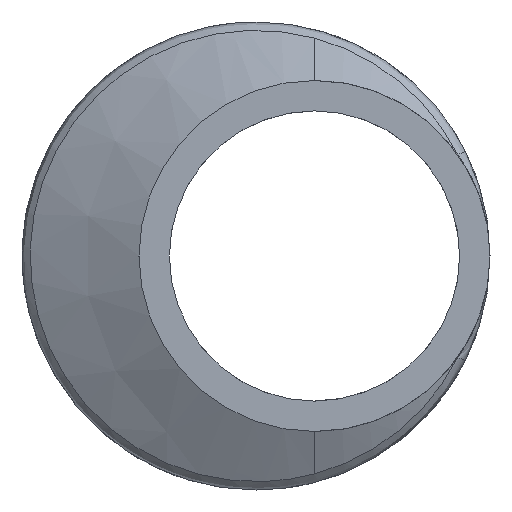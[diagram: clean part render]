
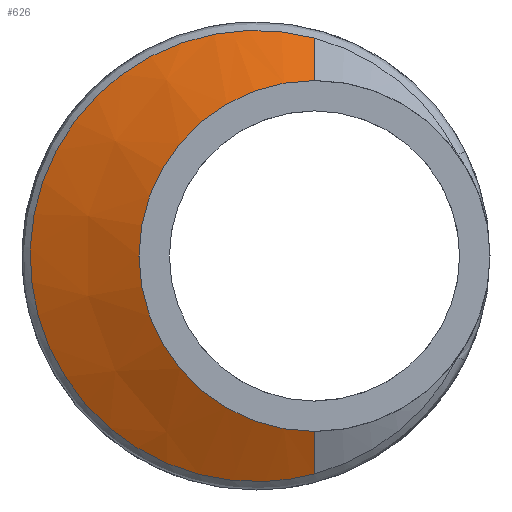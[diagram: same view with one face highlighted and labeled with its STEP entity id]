
A CAD part, left-side view. The second image highlights one B-rep face of the part: STEP entity #626.
In plain terms, the highlighted conical face has half-angle 63.435 degrees and reference radius 9.525 mm.
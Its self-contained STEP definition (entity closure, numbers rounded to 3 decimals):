
#22 = CARTESIAN_POINT ( 'NONE',  ( -27.424, -3.175, 11.826 ) ) ;
#28 = CARTESIAN_POINT ( 'NONE',  ( -26.946, 0.519, 12.271 ) ) ;
#34 = CARTESIAN_POINT ( 'NONE',  ( -25.798, 10.567, 6.278 ) ) ;
#42 = CARTESIAN_POINT ( 'NONE',  ( -25.713, 11.374, -4.592 ) ) ;
#46 = CARTESIAN_POINT ( 'NONE',  ( -26.507, 4.17, -11.527 ) ) ;
#66 = ORIENTED_EDGE ( 'NONE', *, *, #1211, .T. ) ;
#91 = FACE_OUTER_BOUND ( 'NONE', #755, .T. ) ;
#129 = CARTESIAN_POINT ( 'NONE',  ( -27.364, -2.727, 11.947 ) ) ;
#134 = CARTESIAN_POINT ( 'NONE',  ( -26.666, 2.828, 11.926 ) ) ;
#141 = CARTESIAN_POINT ( 'NONE',  ( -25.713, 11.377, 4.585 ) ) ;
#147 = CARTESIAN_POINT ( 'NONE',  ( -25.776, 10.774, -5.86 ) ) ;
#152 = CARTESIAN_POINT ( 'NONE',  ( -26.666, 2.82, -11.928 ) ) ;
#176 = CARTESIAN_POINT ( 'NONE',  ( -28.575, -3.175, 9.525 ) ) ;
#204 = B_SPLINE_CURVE_WITH_KNOTS ( 'NONE', 3,
 ( #22, #129, #534, #1248, #638, #28, #742, #134, #833, #231, #943, #326, #1050, #439, #1153, #542, #1257, #647, #34, #749, #141, #839, #238, #951, #334, #1055, #446, #1158, #549, #1262, #653, #42, #756, #147, #845, #243, #958, #340, #1059, #452, #1166, #553, #1267, #660, #46, #761, #152, #852, #250, #962, #347, #1066, #456, #1171 ),
 .UNSPECIFIED., .F., .F.,
 ( 4, 2, 2, 2, 2, 2, 2, 2, 2, 2, 2, 2, 2, 2, 2, 2, 2, 2, 2, 2, 2, 2, 2, 2, 2, 2, 4 ),
 ( 0.01, 0.012, 0.013, 0.016, 0.017, 0.019, 0.02, 0.022, 0.024, 0.027, 0.029, 0.03, 0.031, 0.033, 0.036, 0.037, 0.039, 0.04, 0.041, 0.044, 0.046, 0.047, 0.048, 0.05, 0.053, 0.054, 0.055 ),
 .UNSPECIFIED. ) ;
#227 = ORIENTED_EDGE ( 'NONE', *, *, #1092, .F. ) ;
#228 = LINE ( 'NONE', #176, #1291 ) ;
#231 = CARTESIAN_POINT ( 'NONE',  ( -26.507, 4.17, 11.526 ) ) ;
#238 = CARTESIAN_POINT ( 'NONE',  ( -25.666, 11.829, 3.245 ) ) ;
#243 = CARTESIAN_POINT ( 'NONE',  ( -25.855, 10.033, -7.053 ) ) ;
#250 = CARTESIAN_POINT ( 'NONE',  ( -26.946, 0.52, -12.271 ) ) ;
#260 = CARTESIAN_POINT ( 'NONE',  ( -28.575, -3.175, -9.525 ) ) ;
#309 = CIRCLE ( 'NONE', #800, 9.525 ) ;
#326 = CARTESIAN_POINT ( 'NONE',  ( -26.359, 5.454, 10.979 ) ) ;
#334 = CARTESIAN_POINT ( 'NONE',  ( -25.635, 12.123, 1.873 ) ) ;
#340 = CARTESIAN_POINT ( 'NONE',  ( -25.981, 8.854, -8.523 ) ) ;
#347 = CARTESIAN_POINT ( 'NONE',  ( -27.184, -1.35, -12.18 ) ) ;
#369 = CARTESIAN_POINT ( 'NONE',  ( -28.575, -3.175, 0. ) ) ;
#402 = CARTESIAN_POINT ( 'NONE',  ( -28.575, -3.175, 0. ) ) ;
#439 = CARTESIAN_POINT ( 'NONE',  ( -26.221, 6.679, 10.281 ) ) ;
#446 = CARTESIAN_POINT ( 'NONE',  ( -25.621, 12.258, 0.468 ) ) ;
#452 = CARTESIAN_POINT ( 'NONE',  ( -26.178, 7.065, -10.021 ) ) ;
#456 = CARTESIAN_POINT ( 'NONE',  ( -27.364, -2.727, -11.947 ) ) ;
#487 = LINE ( 'NONE', #891, #597 ) ;
#494 = VERTEX_POINT ( 'NONE', #1252 ) ;
#502 = DIRECTION ( 'NONE',  ( 0., 0., -1. ) ) ;
#531 = ORIENTED_EDGE ( 'NONE', *, *, #689, .T. ) ;
#534 = CARTESIAN_POINT ( 'NONE',  ( -27.304, -2.271, 12.042 ) ) ;
#542 = CARTESIAN_POINT ( 'NONE',  ( -26.054, 8.181, 9.169 ) ) ;
#549 = CARTESIAN_POINT ( 'NONE',  ( -25.632, 12.149, -1.879 ) ) ;
#553 = CARTESIAN_POINT ( 'NONE',  ( -26.312, 5.866, -10.765 ) ) ;
#564 = AXIS2_PLACEMENT_3D ( 'NONE', #369, #875, #983 ) ;
#581 = DIRECTION ( 'NONE',  ( 0.447, 0., 0.894 ) ) ;
#591 = DIRECTION ( 'NONE',  ( 0.447, 0., -0.894 ) ) ;
#597 = VECTOR ( 'NONE', #591, 1000. ) ;
#626 = ADVANCED_FACE ( 'NONE', ( #91 ), #782, .T. ) ;
#638 = CARTESIAN_POINT ( 'NONE',  ( -27.123, -0.876, 12.223 ) ) ;
#647 = CARTESIAN_POINT ( 'NONE',  ( -25.851, 10.06, 7.063 ) ) ;
#653 = CARTESIAN_POINT ( 'NONE',  ( -25.68, 11.693, -3.706 ) ) ;
#660 = CARTESIAN_POINT ( 'NONE',  ( -26.457, 4.604, -11.361 ) ) ;
#688 = CARTESIAN_POINT ( 'NONE',  ( -28.575, -3.175, 9.525 ) ) ;
#689 = EDGE_CURVE ( 'NONE', #723, #494, #228, .T. ) ;
#703 = VERTEX_POINT ( 'NONE', #1194 ) ;
#723 = VERTEX_POINT ( 'NONE', #688 ) ;
#742 = CARTESIAN_POINT ( 'NONE',  ( -26.832, 1.444, 12.198 ) ) ;
#749 = CARTESIAN_POINT ( 'NONE',  ( -25.732, 11.191, 5.02 ) ) ;
#755 = EDGE_LOOP ( 'NONE', ( #66, #531, #900, #227 ) ) ;
#756 = CARTESIAN_POINT ( 'NONE',  ( -25.732, 11.19, -5.023 ) ) ;
#761 = CARTESIAN_POINT ( 'NONE',  ( -26.612, 3.279, -11.81 ) ) ;
#782 = CONICAL_SURFACE ( 'NONE', #564, 9.525, 1.107 ) ;
#800 = AXIS2_PLACEMENT_3D ( 'NONE', #402, #1112, #502 ) ;
#833 = CARTESIAN_POINT ( 'NONE',  ( -26.612, 3.283, 11.809 ) ) ;
#839 = CARTESIAN_POINT ( 'NONE',  ( -25.679, 11.696, 3.695 ) ) ;
#845 = CARTESIAN_POINT ( 'NONE',  ( -25.8, 10.543, -6.266 ) ) ;
#852 = CARTESIAN_POINT ( 'NONE',  ( -26.832, 1.445, -12.197 ) ) ;
#875 = DIRECTION ( 'NONE',  ( 1., 0., 0. ) ) ;
#885 = EDGE_CURVE ( 'NONE', #494, #703, #204, .T. ) ;
#891 = CARTESIAN_POINT ( 'NONE',  ( -28.575, -3.175, -9.525 ) ) ;
#900 = ORIENTED_EDGE ( 'NONE', *, *, #885, .T. ) ;
#943 = CARTESIAN_POINT ( 'NONE',  ( -26.457, 4.605, 11.36 ) ) ;
#951 = CARTESIAN_POINT ( 'NONE',  ( -25.643, 12.042, 2.334 ) ) ;
#958 = CARTESIAN_POINT ( 'NONE',  ( -25.885, 9.752, -7.436 ) ) ;
#962 = CARTESIAN_POINT ( 'NONE',  ( -27.123, -0.879, -12.223 ) ) ;
#974 = VERTEX_POINT ( 'NONE', #260 ) ;
#983 = DIRECTION ( 'NONE',  ( 0., 0., -1. ) ) ;
#1050 = CARTESIAN_POINT ( 'NONE',  ( -26.312, 5.869, 10.763 ) ) ;
#1055 = CARTESIAN_POINT ( 'NONE',  ( -25.624, 12.231, 0.942 ) ) ;
#1059 = CARTESIAN_POINT ( 'NONE',  ( -26.054, 8.182, -9.169 ) ) ;
#1066 = CARTESIAN_POINT ( 'NONE',  ( -27.304, -2.273, -12.042 ) ) ;
#1092 = EDGE_CURVE ( 'NONE', #974, #703, #487, .T. ) ;
#1112 = DIRECTION ( 'NONE',  ( 1., 0., 0. ) ) ;
#1153 = CARTESIAN_POINT ( 'NONE',  ( -26.177, 7.068, 10.018 ) ) ;
#1158 = CARTESIAN_POINT ( 'NONE',  ( -25.621, 12.257, -0.949 ) ) ;
#1166 = CARTESIAN_POINT ( 'NONE',  ( -26.222, 6.671, -10.286 ) ) ;
#1171 = CARTESIAN_POINT ( 'NONE',  ( -27.424, -3.175, -11.826 ) ) ;
#1194 = CARTESIAN_POINT ( 'NONE',  ( -27.424, -3.175, -11.826 ) ) ;
#1211 = EDGE_CURVE ( 'NONE', #974, #723, #309, .T. ) ;
#1248 = CARTESIAN_POINT ( 'NONE',  ( -27.183, -1.344, 12.18 ) ) ;
#1252 = CARTESIAN_POINT ( 'NONE',  ( -27.424, -3.175, 11.826 ) ) ;
#1257 = CARTESIAN_POINT ( 'NONE',  ( -25.981, 8.856, 8.522 ) ) ;
#1262 = CARTESIAN_POINT ( 'NONE',  ( -25.666, 11.828, -3.25 ) ) ;
#1267 = CARTESIAN_POINT ( 'NONE',  ( -26.359, 5.452, -10.98 ) ) ;
#1291 = VECTOR ( 'NONE', #581, 1000. ) ;
